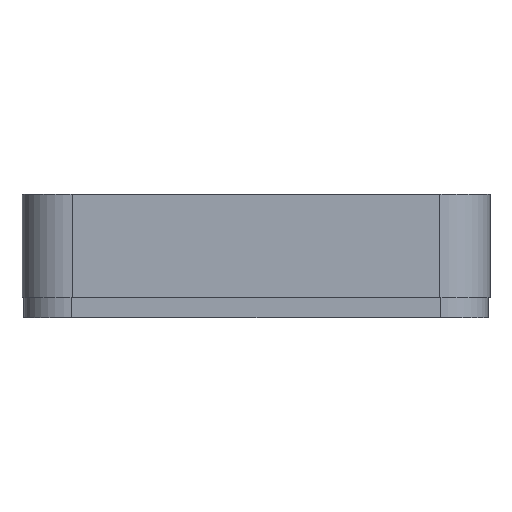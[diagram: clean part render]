
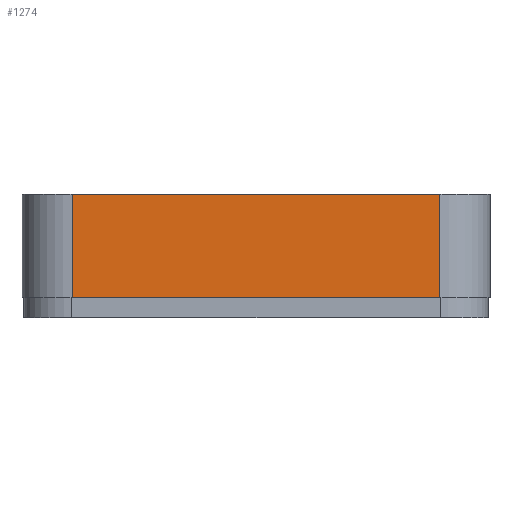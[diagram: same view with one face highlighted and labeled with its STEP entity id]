
A CAD part, left-side view. The second image highlights one B-rep face of the part: STEP entity #1274.
In plain terms, the highlighted planar face has unit normal (-1, 0, 0).
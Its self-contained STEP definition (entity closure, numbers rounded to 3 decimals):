
#66 = CYLINDRICAL_SURFACE('',#67,6.);
#67 = AXIS2_PLACEMENT_3D('',#68,#69,#70);
#68 = CARTESIAN_POINT('',(-20.,-22.,2.4));
#69 = DIRECTION('',(-0.,-0.,-1.));
#70 = DIRECTION('',(1.,0.,0.));
#94 = PLANE('',#95);
#95 = AXIS2_PLACEMENT_3D('',#96,#97,#98);
#96 = CARTESIAN_POINT('',(0.,0.,14.8));
#97 = DIRECTION('',(0.,0.,1.));
#98 = DIRECTION('',(1.,0.,-0.));
#148 = PLANE('',#149);
#149 = AXIS2_PLACEMENT_3D('',#150,#151,#152);
#150 = CARTESIAN_POINT('',(0.,0.,2.4));
#151 = DIRECTION('',(0.,0.,1.));
#152 = DIRECTION('',(1.,0.,-0.));
#270 = VERTEX_POINT('',#271);
#271 = CARTESIAN_POINT('',(-26.,-22.,2.4));
#293 = EDGE_CURVE('',#270,#294,#296,.T.);
#294 = VERTEX_POINT('',#295);
#295 = CARTESIAN_POINT('',(-26.,-22.,14.8));
#296 = SURFACE_CURVE('',#297,(#301,#308),.PCURVE_S1.);
#297 = LINE('',#298,#299);
#298 = CARTESIAN_POINT('',(-26.,-22.,2.4));
#299 = VECTOR('',#300,1.);
#300 = DIRECTION('',(0.,0.,1.));
#301 = PCURVE('',#66,#302);
#302 = DEFINITIONAL_REPRESENTATION('',(#303),#307);
#303 = LINE('',#304,#305);
#304 = CARTESIAN_POINT('',(-3.142,0.));
#305 = VECTOR('',#306,1.);
#306 = DIRECTION('',(-0.,-1.));
#307 = ( GEOMETRIC_REPRESENTATION_CONTEXT(2) 
PARAMETRIC_REPRESENTATION_CONTEXT() REPRESENTATION_CONTEXT('2D SPACE',''
  ) );
#308 = PCURVE('',#309,#314);
#309 = PLANE('',#310);
#310 = AXIS2_PLACEMENT_3D('',#311,#312,#313);
#311 = CARTESIAN_POINT('',(-26.,22.,2.4));
#312 = DIRECTION('',(1.,0.,-0.));
#313 = DIRECTION('',(0.,-1.,0.));
#314 = DEFINITIONAL_REPRESENTATION('',(#315),#319);
#315 = LINE('',#316,#317);
#316 = CARTESIAN_POINT('',(44.,0.));
#317 = VECTOR('',#318,1.);
#318 = DIRECTION('',(0.,-1.));
#319 = ( GEOMETRIC_REPRESENTATION_CONTEXT(2) 
PARAMETRIC_REPRESENTATION_CONTEXT() REPRESENTATION_CONTEXT('2D SPACE',''
  ) );
#347 = EDGE_CURVE('',#348,#270,#350,.T.);
#348 = VERTEX_POINT('',#349);
#349 = CARTESIAN_POINT('',(-26.,22.,2.4));
#350 = SURFACE_CURVE('',#351,(#355,#362),.PCURVE_S1.);
#351 = LINE('',#352,#353);
#352 = CARTESIAN_POINT('',(-26.,22.,2.4));
#353 = VECTOR('',#354,1.);
#354 = DIRECTION('',(0.,-1.,0.));
#355 = PCURVE('',#148,#356);
#356 = DEFINITIONAL_REPRESENTATION('',(#357),#361);
#357 = LINE('',#358,#359);
#358 = CARTESIAN_POINT('',(-26.,22.));
#359 = VECTOR('',#360,1.);
#360 = DIRECTION('',(0.,-1.));
#361 = ( GEOMETRIC_REPRESENTATION_CONTEXT(2) 
PARAMETRIC_REPRESENTATION_CONTEXT() REPRESENTATION_CONTEXT('2D SPACE',''
  ) );
#362 = PCURVE('',#309,#363);
#363 = DEFINITIONAL_REPRESENTATION('',(#364),#368);
#364 = LINE('',#365,#366);
#365 = CARTESIAN_POINT('',(0.,0.));
#366 = VECTOR('',#367,1.);
#367 = DIRECTION('',(1.,0.));
#368 = ( GEOMETRIC_REPRESENTATION_CONTEXT(2) 
PARAMETRIC_REPRESENTATION_CONTEXT() REPRESENTATION_CONTEXT('2D SPACE',''
  ) );
#496 = CYLINDRICAL_SURFACE('',#497,6.);
#497 = AXIS2_PLACEMENT_3D('',#498,#499,#500);
#498 = CARTESIAN_POINT('',(-20.,22.,2.4));
#499 = DIRECTION('',(-0.,-0.,-1.));
#500 = DIRECTION('',(1.,0.,0.));
#885 = EDGE_CURVE('',#886,#294,#888,.T.);
#886 = VERTEX_POINT('',#887);
#887 = CARTESIAN_POINT('',(-26.,22.,14.8));
#888 = SURFACE_CURVE('',#889,(#893,#900),.PCURVE_S1.);
#889 = LINE('',#890,#891);
#890 = CARTESIAN_POINT('',(-26.,22.,14.8));
#891 = VECTOR('',#892,1.);
#892 = DIRECTION('',(0.,-1.,0.));
#893 = PCURVE('',#94,#894);
#894 = DEFINITIONAL_REPRESENTATION('',(#895),#899);
#895 = LINE('',#896,#897);
#896 = CARTESIAN_POINT('',(-26.,22.));
#897 = VECTOR('',#898,1.);
#898 = DIRECTION('',(0.,-1.));
#899 = ( GEOMETRIC_REPRESENTATION_CONTEXT(2) 
PARAMETRIC_REPRESENTATION_CONTEXT() REPRESENTATION_CONTEXT('2D SPACE',''
  ) );
#900 = PCURVE('',#309,#901);
#901 = DEFINITIONAL_REPRESENTATION('',(#902),#906);
#902 = LINE('',#903,#904);
#903 = CARTESIAN_POINT('',(0.,-12.4));
#904 = VECTOR('',#905,1.);
#905 = DIRECTION('',(1.,0.));
#906 = ( GEOMETRIC_REPRESENTATION_CONTEXT(2) 
PARAMETRIC_REPRESENTATION_CONTEXT() REPRESENTATION_CONTEXT('2D SPACE',''
  ) );
#1274 = ADVANCED_FACE('',(#1275),#309,.F.);
#1275 = FACE_BOUND('',#1276,.F.);
#1276 = EDGE_LOOP('',(#1277,#1298,#1299,#1300));
#1277 = ORIENTED_EDGE('',*,*,#1278,.T.);
#1278 = EDGE_CURVE('',#348,#886,#1279,.T.);
#1279 = SURFACE_CURVE('',#1280,(#1284,#1291),.PCURVE_S1.);
#1280 = LINE('',#1281,#1282);
#1281 = CARTESIAN_POINT('',(-26.,22.,2.4));
#1282 = VECTOR('',#1283,1.);
#1283 = DIRECTION('',(0.,0.,1.));
#1284 = PCURVE('',#309,#1285);
#1285 = DEFINITIONAL_REPRESENTATION('',(#1286),#1290);
#1286 = LINE('',#1287,#1288);
#1287 = CARTESIAN_POINT('',(0.,0.));
#1288 = VECTOR('',#1289,1.);
#1289 = DIRECTION('',(0.,-1.));
#1290 = ( GEOMETRIC_REPRESENTATION_CONTEXT(2) 
PARAMETRIC_REPRESENTATION_CONTEXT() REPRESENTATION_CONTEXT('2D SPACE',''
  ) );
#1291 = PCURVE('',#496,#1292);
#1292 = DEFINITIONAL_REPRESENTATION('',(#1293),#1297);
#1293 = LINE('',#1294,#1295);
#1294 = CARTESIAN_POINT('',(-3.142,0.));
#1295 = VECTOR('',#1296,1.);
#1296 = DIRECTION('',(-0.,-1.));
#1297 = ( GEOMETRIC_REPRESENTATION_CONTEXT(2) 
PARAMETRIC_REPRESENTATION_CONTEXT() REPRESENTATION_CONTEXT('2D SPACE',''
  ) );
#1298 = ORIENTED_EDGE('',*,*,#885,.T.);
#1299 = ORIENTED_EDGE('',*,*,#293,.F.);
#1300 = ORIENTED_EDGE('',*,*,#347,.F.);
